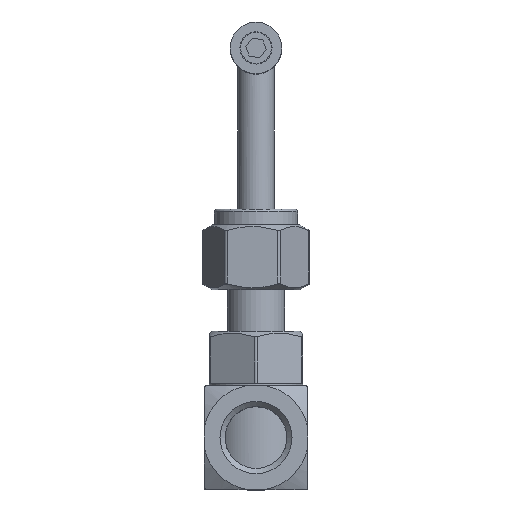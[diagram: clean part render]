
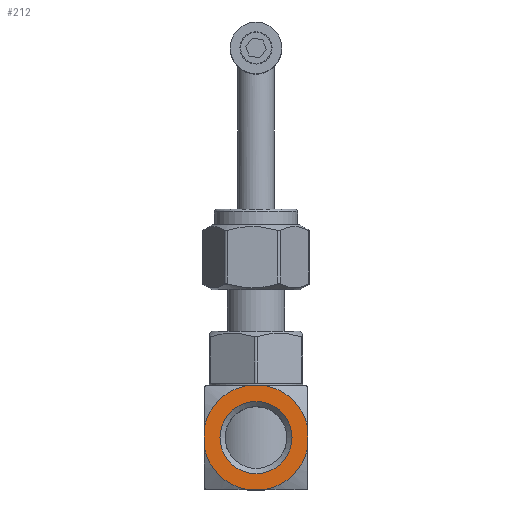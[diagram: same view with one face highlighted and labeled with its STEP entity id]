
A CAD part, top view. The second image highlights one B-rep face of the part: STEP entity #212.
In plain terms, the highlighted planar face has unit normal (0, 0, 1).
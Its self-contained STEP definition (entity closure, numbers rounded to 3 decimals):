
#212=ADVANCED_FACE('',(#1720,#1722),#1724,.T.);
#1720=FACE_BOUND('',#1721,.T.);
#1721=EDGE_LOOP('',(#3922,#3923,#3924,#3925,#3926,#3927,#3928,#3929));
#1722=FACE_BOUND('',#1723,.T.);
#1723=EDGE_LOOP('',(#3930));
#1724=PLANE('',#1725);
#1725=AXIS2_PLACEMENT_3D('',#1726,#1727,#1728);
#1726=CARTESIAN_POINT('',(0.,0.,28.5));
#1727=DIRECTION('',(0.,0.,1.));
#1728=DIRECTION('',(1.,0.,0.));
#3922=ORIENTED_EDGE('',*,*,#4764,.T.);
#3923=ORIENTED_EDGE('',*,*,#4731,.T.);
#3924=ORIENTED_EDGE('',*,*,#4765,.T.);
#3925=ORIENTED_EDGE('',*,*,#4766,.T.);
#3926=ORIENTED_EDGE('',*,*,#4767,.T.);
#3927=ORIENTED_EDGE('',*,*,#4768,.T.);
#3928=ORIENTED_EDGE('',*,*,#4769,.T.);
#3929=ORIENTED_EDGE('',*,*,#4770,.T.);
#3930=ORIENTED_EDGE('',*,*,#4771,.F.);
#4731=EDGE_CURVE('',#5161,#5159,#5162,.T.);
#4764=EDGE_CURVE('',#5221,#5161,#5222,.T.);
#4765=EDGE_CURVE('',#5159,#5223,#5224,.T.);
#4766=EDGE_CURVE('',#5223,#5225,#5226,.T.);
#4767=EDGE_CURVE('',#5225,#5227,#5228,.T.);
#4768=EDGE_CURVE('',#5227,#5229,#5230,.T.);
#4769=EDGE_CURVE('',#5229,#5231,#5232,.T.);
#4770=EDGE_CURVE('',#5231,#5221,#5233,.T.);
#4771=EDGE_CURVE('',#5234,#5234,#5235,.T.);
#5159=VERTEX_POINT('',#5885);
#5161=VERTEX_POINT('',#5926);
#5162=LINE('',#5927,#5928);
#5221=VERTEX_POINT('',#6676);
#5222=CIRCLE('',#6677,10.142);
#5223=VERTEX_POINT('',#6681);
#5224=CIRCLE('',#6682,10.142);
#5225=VERTEX_POINT('',#6686);
#5226=LINE('',#6687,#6688);
#5227=VERTEX_POINT('',#6690);
#5228=CIRCLE('',#6691,10.142);
#5229=VERTEX_POINT('',#6695);
#5230=LINE('',#6696,#6697);
#5231=VERTEX_POINT('',#6699);
#5232=CIRCLE('',#6700,10.142);
#5233=LINE('',#6704,#6705);
#5234=VERTEX_POINT('',#6707);
#5235=CIRCLE('',#6708,6.945);
#5885=CARTESIAN_POINT('',(-1.692,10.,28.5));
#5926=CARTESIAN_POINT('',(1.692,10.,28.5));
#5927=CARTESIAN_POINT('',(1.692,10.,28.5));
#5928=VECTOR('',#5929,1.);
#5929=DIRECTION('',(-1.,0.,0.));
#6676=CARTESIAN_POINT('',(10.,1.692,28.5));
#6677=AXIS2_PLACEMENT_3D('',#6678,#6679,#6680);
#6678=CARTESIAN_POINT('',(0.,0.,28.5));
#6679=DIRECTION('',(0.,0.,1.));
#6680=DIRECTION('',(0.986,0.167,0.));
#6681=CARTESIAN_POINT('',(-10.,1.692,28.5));
#6682=AXIS2_PLACEMENT_3D('',#6683,#6684,#6685);
#6683=CARTESIAN_POINT('',(0.,0.,28.5));
#6684=DIRECTION('',(0.,0.,1.));
#6685=DIRECTION('',(-0.167,0.986,0.));
#6686=CARTESIAN_POINT('',(-10.,-1.692,28.5));
#6687=CARTESIAN_POINT('',(-10.,1.692,28.5));
#6688=VECTOR('',#6689,1.);
#6689=DIRECTION('',(0.,-1.,0.));
#6690=CARTESIAN_POINT('',(-1.692,-10.,28.5));
#6691=AXIS2_PLACEMENT_3D('',#6692,#6693,#6694);
#6692=CARTESIAN_POINT('',(0.,0.,28.5));
#6693=DIRECTION('',(0.,0.,1.));
#6694=DIRECTION('',(-0.986,-0.167,0.));
#6695=CARTESIAN_POINT('',(1.692,-10.,28.5));
#6696=CARTESIAN_POINT('',(-1.692,-10.,28.5));
#6697=VECTOR('',#6698,1.);
#6698=DIRECTION('',(1.,0.,0.));
#6699=CARTESIAN_POINT('',(10.,-1.692,28.5));
#6700=AXIS2_PLACEMENT_3D('',#6701,#6702,#6703);
#6701=CARTESIAN_POINT('',(0.,0.,28.5));
#6702=DIRECTION('',(0.,0.,1.));
#6703=DIRECTION('',(0.167,-0.986,0.));
#6704=CARTESIAN_POINT('',(10.,-1.692,28.5));
#6705=VECTOR('',#6706,1.);
#6706=DIRECTION('',(0.,1.,0.));
#6707=CARTESIAN_POINT('',(0.,6.945,28.5));
#6708=AXIS2_PLACEMENT_3D('',#6709,#6710,#6711);
#6709=CARTESIAN_POINT('',(0.,0.,28.5));
#6710=DIRECTION('',(0.,0.,1.));
#6711=DIRECTION('',(0.,1.,0.));
